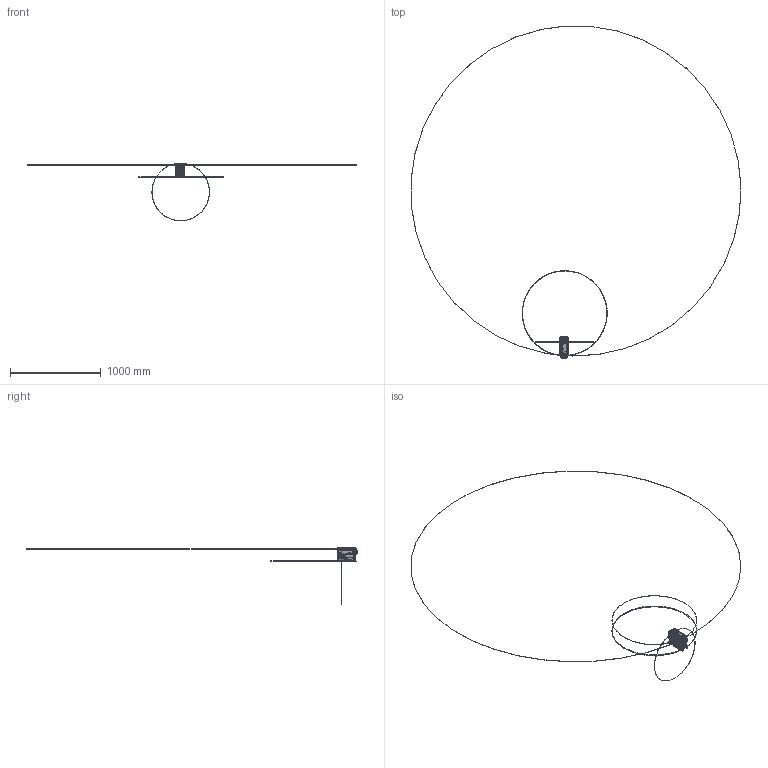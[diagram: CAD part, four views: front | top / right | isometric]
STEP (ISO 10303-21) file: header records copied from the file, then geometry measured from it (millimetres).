
FILE_DESCRIPTION((''),'2;1');
FILE_NAME('UNIM-03-M100-SIMPLE','2013-08-09T',('owenrh01'),(''),'PRO/ENGINEER BY PARAMETRIC TECHNOLOGY CORPORATION, 2011490','PRO/ENGINEER BY PARAMETRIC TECHNOLOGY CORPORATION, 2011490','');
FILE_SCHEMA(('CONFIG_CONTROL_DESIGN'));
Products named in the file (1): UNIM-03-M100-SIMPLE
Bounding box: 3640.84 x 3663.5 x 634.42 mm (x, y, z)
Surface area: 529955.8 mm2 (no closed solid volume)
Topology: 0 solids, 0 shells, 2165 faces, 17387 edges, 17285 vertices
Faces by surface type: bspline 2052, torus 99, sphere 14
Entity records: 305631 total; most frequent: CARTESIAN_POINT 149861, DIRECTION 23196, TRIMMED_CURVE 20964, VECTOR 18958, LINE 18958, DEFINITIONAL_REPRESENTATION 17171, PCURVE 17171, COMPOSITE_CURVE_SEGMENT 17171
